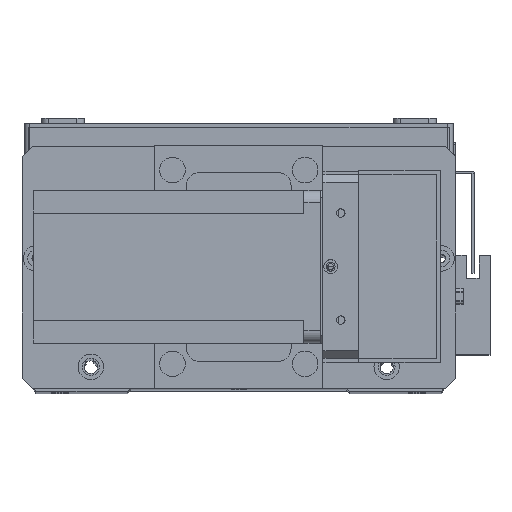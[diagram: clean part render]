
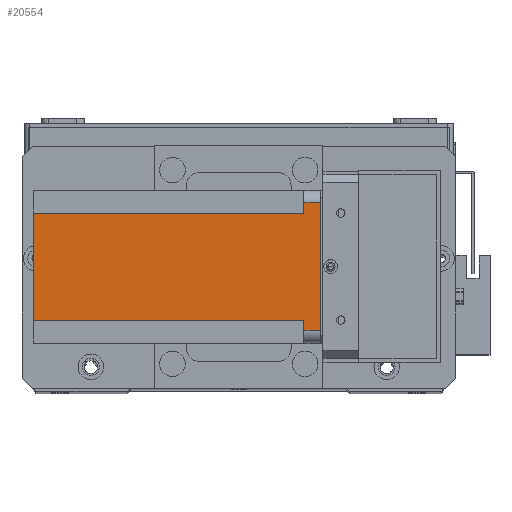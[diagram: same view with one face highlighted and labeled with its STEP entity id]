
A CAD part, top view. The second image highlights one B-rep face of the part: STEP entity #20554.
In plain terms, the highlighted planar face has unit normal (0, 0, 1) as drawn and (-1, 0, 0) by its records, which use the part's own axes.
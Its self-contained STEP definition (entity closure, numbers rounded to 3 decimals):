
#67 = EDGE_CURVE ( 'NONE', #28411, #24425, #19139, .T. ) ;
#72 = EDGE_CURVE ( 'NONE', #28411, #15327, #18545, .T. ) ;
#117 = EDGE_CURVE ( 'NONE', #2963, #20933, #18042, .T. ) ;
#153 = EDGE_CURVE ( 'NONE', #11884, #20933, #17811, .T. ) ;
#215 = EDGE_CURVE ( 'NONE', #22777, #11884, #16962, .T. ) ;
#248 = EDGE_CURVE ( 'NONE', #22777, #18223, #16530, .T. ) ;
#260 = EDGE_CURVE ( 'NONE', #24425, #18223, #16391, .T. ) ;
#1593 = DIRECTION ( 'NONE',  ( 0., -1., 0. ) ) ;
#2963 = VERTEX_POINT ( 'NONE', #13209 ) ;
#3609 = DIRECTION ( 'NONE',  ( 0., -1., 0. ) ) ;
#3643 = DIRECTION ( 'NONE',  ( -1., 0., 0. ) ) ;
#3673 = PLANE ( 'NONE',  #29439 ) ;
#3987 = CARTESIAN_POINT ( 'NONE',  ( 0., 0., -112.5 ) ) ;
#4545 = CARTESIAN_POINT ( 'NONE',  ( 0., 55., -6.5 ) ) ;
#6131 = FACE_OUTER_BOUND ( 'NONE', #22133, .T. ) ;
#9411 = DIRECTION ( 'NONE',  ( 0., 0., -1. ) ) ;
#9479 = CARTESIAN_POINT ( 'NONE',  ( 0., 9., -112.5 ) ) ;
#10387 = CARTESIAN_POINT ( 'NONE',  ( 0., 9., -6.5 ) ) ;
#11060 = VECTOR ( 'NONE', #1593, 1000. ) ;
#11225 = DIRECTION ( 'NONE',  ( 0., -1., 0. ) ) ;
#11444 = CARTESIAN_POINT ( 'NONE',  ( 0., 51., -112.5 ) ) ;
#11719 = CARTESIAN_POINT ( 'NONE',  ( 0., 5., -6.5 ) ) ;
#11803 = ORIENTED_EDGE ( 'NONE', *, *, #67, .F. ) ;
#11884 = VERTEX_POINT ( 'NONE', #24426 ) ;
#12245 = DIRECTION ( 'NONE',  ( 0., 0., 1. ) ) ;
#12444 = CARTESIAN_POINT ( 'NONE',  ( 0., 0., -112.5 ) ) ;
#12488 = CARTESIAN_POINT ( 'NONE',  ( 0., 51., -112.5 ) ) ;
#13209 = CARTESIAN_POINT ( 'NONE',  ( 0., 55., 0. ) ) ;
#13935 = CARTESIAN_POINT ( 'NONE',  ( 0., 5., 0. ) ) ;
#14394 = DIRECTION ( 'NONE',  ( 0., 1., 0. ) ) ;
#14893 = CARTESIAN_POINT ( 'NONE',  ( 0., 60., -6.5 ) ) ;
#15327 = VERTEX_POINT ( 'NONE', #13935 ) ;
#15725 = DIRECTION ( 'NONE',  ( 0., 0., -1. ) ) ;
#15950 = CARTESIAN_POINT ( 'NONE',  ( 0., 55., -112.5 ) ) ;
#16211 = ORIENTED_EDGE ( 'NONE', *, *, #72, .T. ) ;
#16391 = LINE ( 'NONE', #9479, #16696 ) ;
#16525 = VECTOR ( 'NONE', #11225, 1000. ) ;
#16526 = DIRECTION ( 'NONE',  ( 0., 0., 1. ) ) ;
#16530 = LINE ( 'NONE', #12444, #16525 ) ;
#16696 = VECTOR ( 'NONE', #9411, 1000. ) ;
#16714 = DIRECTION ( 'NONE',  ( 0., 1., 0. ) ) ;
#16768 = CARTESIAN_POINT ( 'NONE',  ( 0., 0., -6.5 ) ) ;
#16884 = VECTOR ( 'NONE', #12245, 1000. ) ;
#16962 = LINE ( 'NONE', #12488, #16884 ) ;
#16972 = CARTESIAN_POINT ( 'NONE',  ( 0., 5., -112.5 ) ) ;
#17597 = VECTOR ( 'NONE', #14394, 1000. ) ;
#17798 = CARTESIAN_POINT ( 'NONE',  ( 0., 9., -112.5 ) ) ;
#17811 = LINE ( 'NONE', #14893, #17597 ) ;
#17907 = ORIENTED_EDGE ( 'NONE', *, *, #29102, .F. ) ;
#17943 = VECTOR ( 'NONE', #15725, 1000. ) ;
#18042 = LINE ( 'NONE', #15950, #17943 ) ;
#18223 = VERTEX_POINT ( 'NONE', #17798 ) ;
#18519 = VECTOR ( 'NONE', #16526, 1000. ) ;
#18545 = LINE ( 'NONE', #16972, #18519 ) ;
#18646 = ORIENTED_EDGE ( 'NONE', *, *, #117, .T. ) ;
#19036 = VECTOR ( 'NONE', #16714, 1000. ) ;
#19139 = LINE ( 'NONE', #16768, #19036 ) ;
#20554 = ADVANCED_FACE ( 'NONE', ( #6131 ), #3673, .T. ) ;
#20933 = VERTEX_POINT ( 'NONE', #4545 ) ;
#22133 = EDGE_LOOP ( 'NONE', ( #11803, #16211, #17907, #18646, #22376, #22606, #24716, #29140 ) ) ;
#22376 = ORIENTED_EDGE ( 'NONE', *, *, #153, .F. ) ;
#22606 = ORIENTED_EDGE ( 'NONE', *, *, #215, .F. ) ;
#22777 = VERTEX_POINT ( 'NONE', #11444 ) ;
#24425 = VERTEX_POINT ( 'NONE', #10387 ) ;
#24426 = CARTESIAN_POINT ( 'NONE',  ( 0., 51., -6.5 ) ) ;
#24716 = ORIENTED_EDGE ( 'NONE', *, *, #248, .T. ) ;
#28411 = VERTEX_POINT ( 'NONE', #11719 ) ;
#29102 = EDGE_CURVE ( 'NONE', #2963, #15327, #29213, .T. ) ;
#29140 = ORIENTED_EDGE ( 'NONE', *, *, #260, .F. ) ;
#29213 = LINE ( 'NONE', #29556, #11060 ) ;
#29439 = AXIS2_PLACEMENT_3D ( 'NONE', #3987, #3643, #3609 ) ;
#29556 = CARTESIAN_POINT ( 'NONE',  ( 0., 0., 0. ) ) ;
